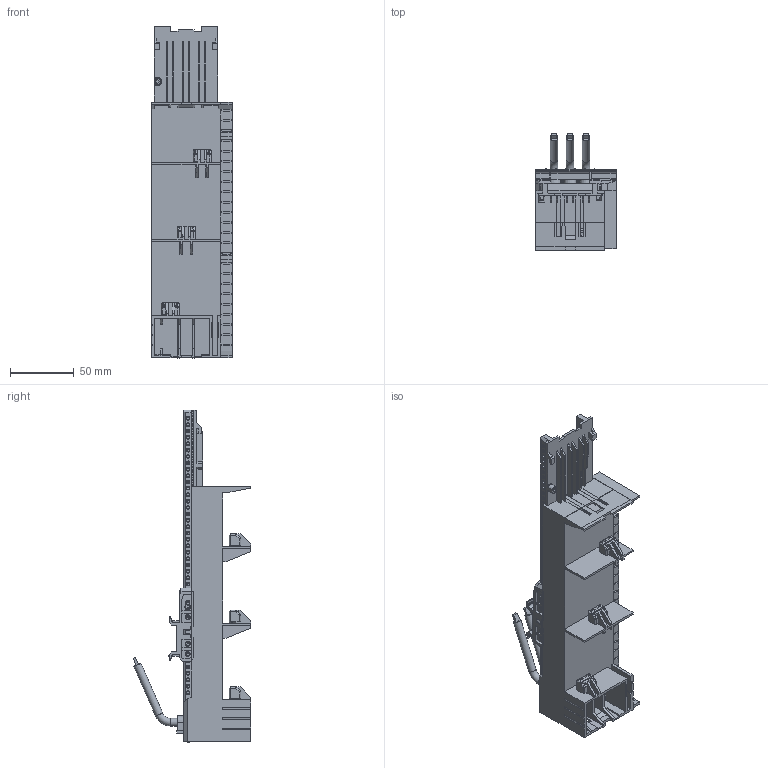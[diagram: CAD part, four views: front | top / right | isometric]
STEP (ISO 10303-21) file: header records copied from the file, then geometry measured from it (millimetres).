
FILE_DESCRIPTION (( 'STEP AP203' ), '1' );
FILE_NAME ('55374.STEP', '2021-08-18T06:35:16', ( '' ), ( '' ), 'SwSTEP 2.0', 'SolidWorks 2017', '' );
FILE_SCHEMA (( 'CONFIG_CONTROL_DESIGN' ));
Products named in the file (2): 55374
Bounding box: 63.05 x 92.2 x 260.2 mm (x, y, z)
Volume: 372770.3 mm3; surface area: 119530 mm2
Topology: 8 solids, 25 shells, 2464 faces, 6828 edges, 4588 vertices
Faces by surface type: plane 1715, cylinder 462, cone 214, bspline 70, torus 3
Full cylindrical faces by diameter (mm): 1.988 x176, 2.584 x1, 2.6 x14, 2.982 x6, 3.479 x4, 4.2 x2, 5.169 x2, 5.964 x7, 6 x6
Entity records: 100152 total; most frequent: CARTESIAN_POINT 42083, ORIENTED_EDGE 12458, DIRECTION 10260, EDGE_CURVE 6229, VERTEX_POINT 4411, VECTOR 4030, LINE 4030, EDGE_LOOP 3148
